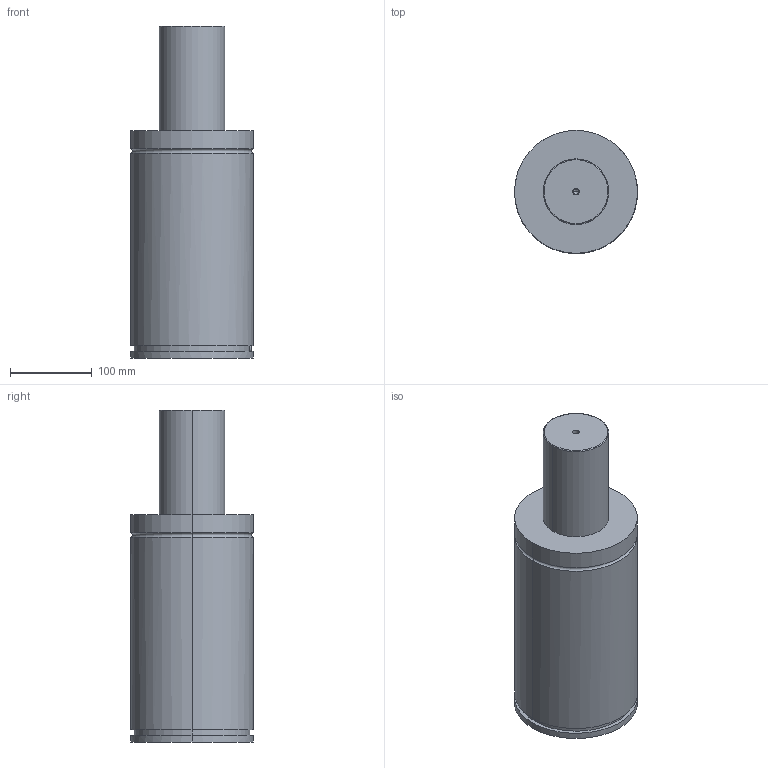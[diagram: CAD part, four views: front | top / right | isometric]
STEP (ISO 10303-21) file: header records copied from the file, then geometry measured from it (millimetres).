
FILE_DESCRIPTION(/* description */ (''),/* implementation_level */ '2;1');
FILE_NAME(/* name */ '3d_gse150-125_03875_r00.stp',/* time_stamp */ '2011-01-10T14:15:20+09:00',/* author */ ('MISUMI'),/* organization */ (''),/* preprocessor_version */ 'ST-DEVELOPER v11',/* originating_system */ 'UGS - NX 5.0',/* authorisation */ '');
FILE_SCHEMA (('CONFIG_CONTROL_DESIGN'));
Length unit declared in the file: millimetre
Products named in the file (1): 3d_gse150-125_03875_r00
Bounding box: 150 x 150 x 405 mm (x, y, z)
Volume: 5511839.8 mm3; surface area: 206389.7 mm2
Topology: 1 solids, 1 shells, 75 faces, 161 edges, 103 vertices
Faces by surface type: cylinder 34, plane 27, cone 10, torus 4
Entity records: 2145 total; most frequent: DIRECTION 393, CARTESIAN_POINT 360, ORIENTED_EDGE 318, AXIS2_PLACEMENT_3D 164, EDGE_CURVE 159, VERTEX_POINT 103, EDGE_LOOP 92, CIRCLE 88
